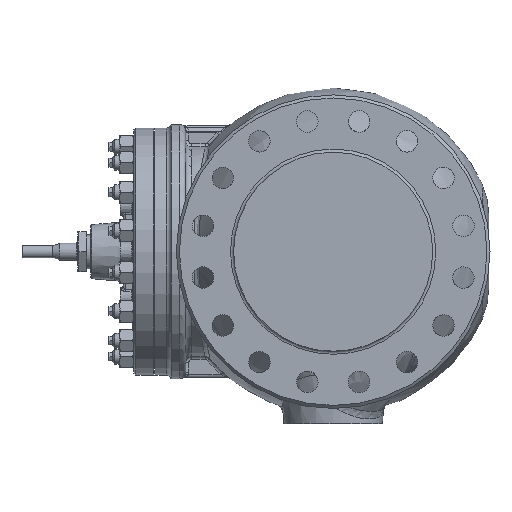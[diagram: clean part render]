
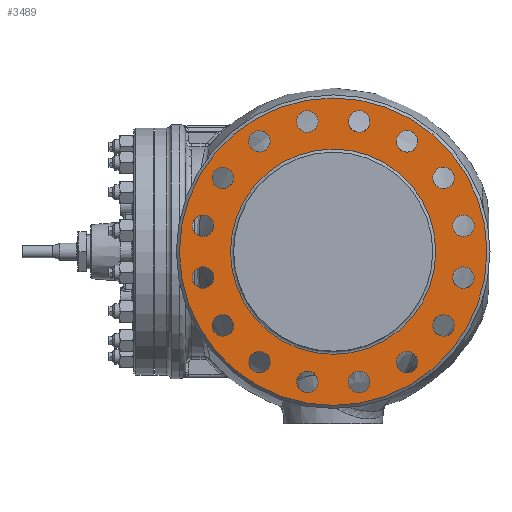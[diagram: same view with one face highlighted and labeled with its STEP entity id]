
A CAD part, left-side view. The second image highlights one B-rep face of the part: STEP entity #3489.
In plain terms, the highlighted planar face has unit normal (-1, 0, 0).
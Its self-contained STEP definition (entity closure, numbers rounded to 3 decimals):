
#921=PLANE('',#19697);
#3489=ADVANCED_FACE('',(#4995,#4996,#4997,#4998,#4999,#5000,#5001,#5002,
#5003,#5004,#5005,#5006,#5007,#5008,#5009,#5010,#5011,#5012),#921,.T.);
#4995=FACE_BOUND('',#5927,.T.);
#4996=FACE_BOUND('',#5928,.T.);
#4997=FACE_BOUND('',#5929,.T.);
#4998=FACE_BOUND('',#5930,.T.);
#4999=FACE_BOUND('',#5931,.T.);
#5000=FACE_BOUND('',#5932,.T.);
#5001=FACE_BOUND('',#5933,.T.);
#5002=FACE_BOUND('',#5934,.T.);
#5003=FACE_BOUND('',#5935,.T.);
#5004=FACE_BOUND('',#5936,.T.);
#5005=FACE_BOUND('',#5937,.T.);
#5006=FACE_BOUND('',#5938,.T.);
#5007=FACE_BOUND('',#5939,.T.);
#5008=FACE_BOUND('',#5940,.T.);
#5009=FACE_BOUND('',#5941,.T.);
#5010=FACE_BOUND('',#5942,.T.);
#5011=FACE_BOUND('',#5943,.T.);
#5012=FACE_BOUND('',#5944,.T.);
#5927=EDGE_LOOP('',(#8831));
#5928=EDGE_LOOP('',(#8832));
#5929=EDGE_LOOP('',(#8833));
#5930=EDGE_LOOP('',(#8834));
#5931=EDGE_LOOP('',(#8835));
#5932=EDGE_LOOP('',(#8836));
#5933=EDGE_LOOP('',(#8837));
#5934=EDGE_LOOP('',(#8838));
#5935=EDGE_LOOP('',(#8839));
#5936=EDGE_LOOP('',(#8840));
#5937=EDGE_LOOP('',(#8841));
#5938=EDGE_LOOP('',(#8842));
#5939=EDGE_LOOP('',(#8843));
#5940=EDGE_LOOP('',(#8844));
#5941=EDGE_LOOP('',(#8845));
#5942=EDGE_LOOP('',(#8846));
#5943=EDGE_LOOP('',(#8847));
#5944=EDGE_LOOP('',(#8848));
#7784=CIRCLE('',#19679,250.);
#7785=CIRCLE('',#19680,17.5);
#7786=CIRCLE('',#19681,17.5);
#7787=CIRCLE('',#19682,17.5);
#7788=CIRCLE('',#19683,17.5);
#7789=CIRCLE('',#19684,17.5);
#7790=CIRCLE('',#19685,17.5);
#7791=CIRCLE('',#19686,17.5);
#7792=CIRCLE('',#19687,17.5);
#7793=CIRCLE('',#19688,17.5);
#7794=CIRCLE('',#19689,17.5);
#7795=CIRCLE('',#19690,17.5);
#7796=CIRCLE('',#19691,17.5);
#7797=CIRCLE('',#19692,17.5);
#7798=CIRCLE('',#19693,17.5);
#7799=CIRCLE('',#19694,17.5);
#7800=CIRCLE('',#19695,17.5);
#7801=CIRCLE('',#19696,166.9);
#8831=ORIENTED_EDGE('',*,*,#15899,.T.);
#8832=ORIENTED_EDGE('',*,*,#15900,.T.);
#8833=ORIENTED_EDGE('',*,*,#15901,.T.);
#8834=ORIENTED_EDGE('',*,*,#15902,.T.);
#8835=ORIENTED_EDGE('',*,*,#15903,.T.);
#8836=ORIENTED_EDGE('',*,*,#15904,.T.);
#8837=ORIENTED_EDGE('',*,*,#15905,.T.);
#8838=ORIENTED_EDGE('',*,*,#15906,.T.);
#8839=ORIENTED_EDGE('',*,*,#15907,.T.);
#8840=ORIENTED_EDGE('',*,*,#15908,.T.);
#8841=ORIENTED_EDGE('',*,*,#15909,.T.);
#8842=ORIENTED_EDGE('',*,*,#15910,.T.);
#8843=ORIENTED_EDGE('',*,*,#15911,.T.);
#8844=ORIENTED_EDGE('',*,*,#15912,.T.);
#8845=ORIENTED_EDGE('',*,*,#15913,.T.);
#8846=ORIENTED_EDGE('',*,*,#15914,.T.);
#8847=ORIENTED_EDGE('',*,*,#15915,.T.);
#8848=ORIENTED_EDGE('',*,*,#15916,.T.);
#14121=VERTEX_POINT('',#27754);
#14122=VERTEX_POINT('',#27756);
#14123=VERTEX_POINT('',#27758);
#14124=VERTEX_POINT('',#27760);
#14125=VERTEX_POINT('',#27762);
#14126=VERTEX_POINT('',#27764);
#14127=VERTEX_POINT('',#27766);
#14128=VERTEX_POINT('',#27768);
#14129=VERTEX_POINT('',#27770);
#14130=VERTEX_POINT('',#27772);
#14131=VERTEX_POINT('',#27774);
#14132=VERTEX_POINT('',#27776);
#14133=VERTEX_POINT('',#27778);
#14134=VERTEX_POINT('',#27780);
#14135=VERTEX_POINT('',#27782);
#14136=VERTEX_POINT('',#27784);
#14137=VERTEX_POINT('',#27786);
#14138=VERTEX_POINT('',#27788);
#15899=EDGE_CURVE('',#14121,#14121,#7784,.T.);
#15900=EDGE_CURVE('',#14122,#14122,#7785,.T.);
#15901=EDGE_CURVE('',#14123,#14123,#7786,.T.);
#15902=EDGE_CURVE('',#14124,#14124,#7787,.T.);
#15903=EDGE_CURVE('',#14125,#14125,#7788,.T.);
#15904=EDGE_CURVE('',#14126,#14126,#7789,.T.);
#15905=EDGE_CURVE('',#14127,#14127,#7790,.T.);
#15906=EDGE_CURVE('',#14128,#14128,#7791,.T.);
#15907=EDGE_CURVE('',#14129,#14129,#7792,.T.);
#15908=EDGE_CURVE('',#14130,#14130,#7793,.T.);
#15909=EDGE_CURVE('',#14131,#14131,#7794,.T.);
#15910=EDGE_CURVE('',#14132,#14132,#7795,.T.);
#15911=EDGE_CURVE('',#14133,#14133,#7796,.T.);
#15912=EDGE_CURVE('',#14134,#14134,#7797,.T.);
#15913=EDGE_CURVE('',#14135,#14135,#7798,.T.);
#15914=EDGE_CURVE('',#14136,#14136,#7799,.T.);
#15915=EDGE_CURVE('',#14137,#14137,#7800,.T.);
#15916=EDGE_CURVE('',#14138,#14138,#7801,.T.);
#19679=AXIS2_PLACEMENT_3D('',#27753,#21869,#21870);
#19680=AXIS2_PLACEMENT_3D('',#27755,#21871,#21872);
#19681=AXIS2_PLACEMENT_3D('',#27757,#21873,#21874);
#19682=AXIS2_PLACEMENT_3D('',#27759,#21875,#21876);
#19683=AXIS2_PLACEMENT_3D('',#27761,#21877,#21878);
#19684=AXIS2_PLACEMENT_3D('',#27763,#21879,#21880);
#19685=AXIS2_PLACEMENT_3D('',#27765,#21881,#21882);
#19686=AXIS2_PLACEMENT_3D('',#27767,#21883,#21884);
#19687=AXIS2_PLACEMENT_3D('',#27769,#21885,#21886);
#19688=AXIS2_PLACEMENT_3D('',#27771,#21887,#21888);
#19689=AXIS2_PLACEMENT_3D('',#27773,#21889,#21890);
#19690=AXIS2_PLACEMENT_3D('',#27775,#21891,#21892);
#19691=AXIS2_PLACEMENT_3D('',#27777,#21893,#21894);
#19692=AXIS2_PLACEMENT_3D('',#27779,#21895,#21896);
#19693=AXIS2_PLACEMENT_3D('',#27781,#21897,#21898);
#19694=AXIS2_PLACEMENT_3D('',#27783,#21899,#21900);
#19695=AXIS2_PLACEMENT_3D('',#27785,#21901,#21902);
#19696=AXIS2_PLACEMENT_3D('',#27787,#21903,#21904);
#19697=AXIS2_PLACEMENT_3D('',#27789,#21905,#21906);
#21869=DIRECTION('',(-1.,0.,0.));
#21870=DIRECTION('',(0.,0.,1.));
#21871=DIRECTION('',(1.,0.,0.));
#21872=DIRECTION('',(0.,-0.383,-0.924));
#21873=DIRECTION('',(1.,0.,0.));
#21874=DIRECTION('',(0.,-0.707,-0.707));
#21875=DIRECTION('',(1.,0.,0.));
#21876=DIRECTION('',(0.,-0.924,-0.383));
#21877=DIRECTION('',(1.,0.,0.));
#21878=DIRECTION('',(0.,-1.,0.));
#21879=DIRECTION('',(1.,0.,0.));
#21880=DIRECTION('',(0.,-0.924,0.383));
#21881=DIRECTION('',(1.,0.,0.));
#21882=DIRECTION('',(0.,-0.707,0.707));
#21883=DIRECTION('',(1.,0.,0.));
#21884=DIRECTION('',(0.,-0.383,0.924));
#21885=DIRECTION('',(1.,0.,0.));
#21886=DIRECTION('',(0.,0.,1.));
#21887=DIRECTION('',(1.,0.,0.));
#21888=DIRECTION('',(0.,0.383,0.924));
#21889=DIRECTION('',(1.,0.,0.));
#21890=DIRECTION('',(0.,0.707,0.707));
#21891=DIRECTION('',(1.,0.,0.));
#21892=DIRECTION('',(0.,0.924,0.383));
#21893=DIRECTION('',(1.,0.,0.));
#21894=DIRECTION('',(0.,1.,0.));
#21895=DIRECTION('',(1.,0.,0.));
#21896=DIRECTION('',(0.,0.924,-0.383));
#21897=DIRECTION('',(1.,0.,0.));
#21898=DIRECTION('',(0.,0.707,-0.707));
#21899=DIRECTION('',(1.,0.,0.));
#21900=DIRECTION('',(0.,0.383,-0.924));
#21901=DIRECTION('',(1.,0.,0.));
#21902=DIRECTION('',(0.,0.,-1.));
#21903=DIRECTION('',(1.,0.,0.));
#21904=DIRECTION('',(0.,0.,1.));
#21905=DIRECTION('',(-1.,0.,0.));
#21906=DIRECTION('',(0.,0.,1.));
#27753=CARTESIAN_POINT('',(-369.,0.,0.));
#27754=CARTESIAN_POINT('',(-369.,0.,250.));
#27755=CARTESIAN_POINT('',(-369.,179.514,-119.948));
#27756=CARTESIAN_POINT('',(-369.,172.817,-136.116));
#27757=CARTESIAN_POINT('',(-369.,119.948,-179.514));
#27758=CARTESIAN_POINT('',(-369.,107.573,-191.889));
#27759=CARTESIAN_POINT('',(-369.,42.12,-211.752));
#27760=CARTESIAN_POINT('',(-369.,25.952,-218.449));
#27761=CARTESIAN_POINT('',(-369.,-42.12,-211.752));
#27762=CARTESIAN_POINT('',(-369.,-59.62,-211.752));
#27763=CARTESIAN_POINT('',(-369.,-119.948,-179.514));
#27764=CARTESIAN_POINT('',(-369.,-136.116,-172.817));
#27765=CARTESIAN_POINT('',(-369.,-179.514,-119.948));
#27766=CARTESIAN_POINT('',(-369.,-191.889,-107.573));
#27767=CARTESIAN_POINT('',(-369.,-211.752,-42.12));
#27768=CARTESIAN_POINT('',(-369.,-218.449,-25.952));
#27769=CARTESIAN_POINT('',(-369.,-211.752,42.12));
#27770=CARTESIAN_POINT('',(-369.,-211.752,59.62));
#27771=CARTESIAN_POINT('',(-369.,-179.514,119.948));
#27772=CARTESIAN_POINT('',(-369.,-172.817,136.116));
#27773=CARTESIAN_POINT('',(-369.,-119.948,179.514));
#27774=CARTESIAN_POINT('',(-369.,-107.573,191.889));
#27775=CARTESIAN_POINT('',(-369.,-42.12,211.752));
#27776=CARTESIAN_POINT('',(-369.,-25.952,218.449));
#27777=CARTESIAN_POINT('',(-369.,42.12,211.752));
#27778=CARTESIAN_POINT('',(-369.,59.62,211.752));
#27779=CARTESIAN_POINT('',(-369.,119.948,179.514));
#27780=CARTESIAN_POINT('',(-369.,136.116,172.817));
#27781=CARTESIAN_POINT('',(-369.,179.514,119.948));
#27782=CARTESIAN_POINT('',(-369.,191.889,107.573));
#27783=CARTESIAN_POINT('',(-369.,211.752,42.12));
#27784=CARTESIAN_POINT('',(-369.,218.449,25.952));
#27785=CARTESIAN_POINT('',(-369.,211.752,-42.12));
#27786=CARTESIAN_POINT('',(-369.,211.752,-59.62));
#27787=CARTESIAN_POINT('',(-369.,0.,0.));
#27788=CARTESIAN_POINT('',(-369.,0.,166.9));
#27789=CARTESIAN_POINT('',(-369.,161.9,0.));
